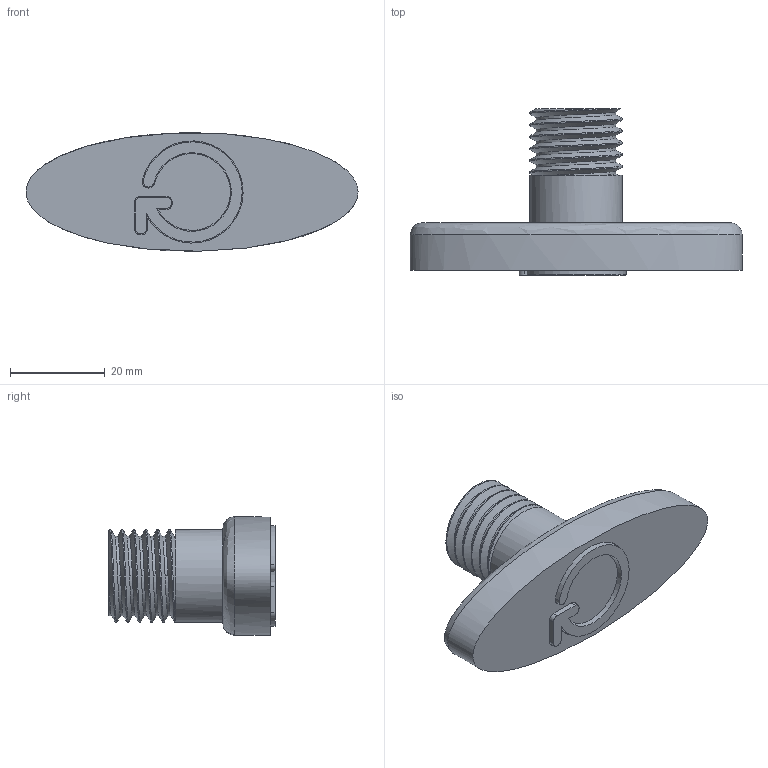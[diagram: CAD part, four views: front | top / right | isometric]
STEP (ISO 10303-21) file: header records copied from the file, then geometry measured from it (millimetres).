
FILE_DESCRIPTION(/* description */ (''),/* implementation_level */ '2;1');
FILE_NAME(/* name */ 'knob.step',/* time_stamp */ '2022-10-31T08:46:39+03:00',/* author */ (''),/* organization */ (''),/* preprocessor_version */ 'ST-DEVELOPER v19.2',/* originating_system */ 'Autodesk Translation Framework v11.17.0.187',/* authorisation */ '');
FILE_SCHEMA (('AUTOMOTIVE_DESIGN { 1 0 10303 214 3 1 1 }'));
Length unit declared in the file: millimetre
Products named in the file (1): knob
Bounding box: 70 x 35 x 25 mm (x, y, z)
Volume: 20235.3 mm3; surface area: 7071 mm2
Topology: 2 solids, 2 shells, 52 faces, 137 edges, 91 vertices
Faces by surface type: cylinder 29, plane 19, bspline 4
Full cylindrical faces by diameter (mm): 16.738 x4, 19.59 x6
Entity records: 3649 total; most frequent: CARTESIAN_POINT 2348, ORIENTED_EDGE 274, DIRECTION 243, EDGE_CURVE 137, VERTEX_POINT 91, AXIS2_PLACEMENT_3D 89, LINE 65, VECTOR 65
